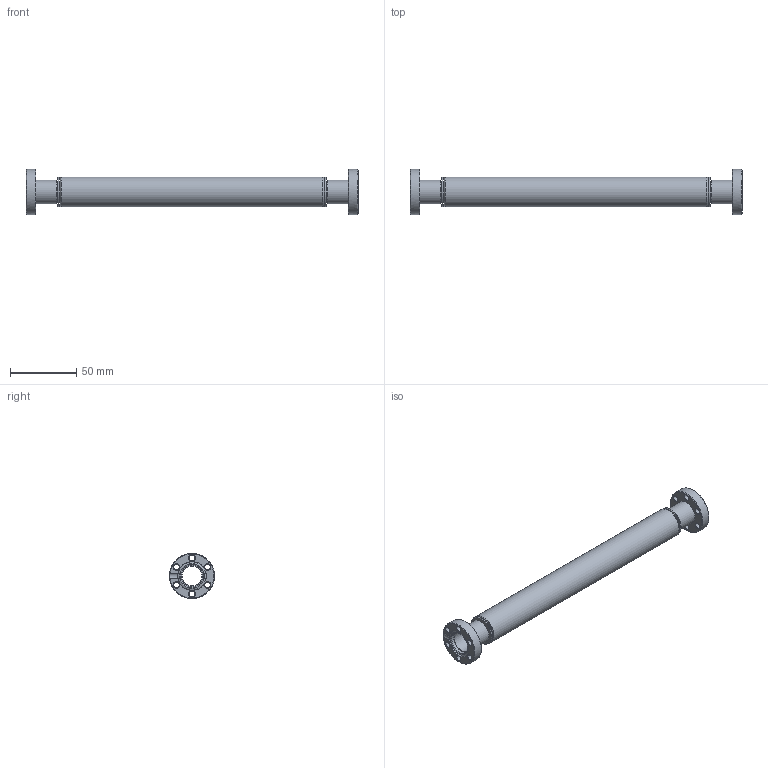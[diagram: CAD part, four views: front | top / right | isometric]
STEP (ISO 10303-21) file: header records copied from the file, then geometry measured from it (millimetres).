
FILE_DESCRIPTION((''),'2;1');
FILE_NAME('W:\13785_CF_Global_Fit_Umsetzung\182_Flexible_Metal\M213-361.stp','2010-09-01T14:52:27',('KAA'),(''),'Autodesk Inventor 2011','Autodesk Inventor 2011','');
FILE_SCHEMA(('AUTOMOTIVE_DESIGN { 1 0 10303 214 1 1 1 1 }'));
Length unit declared in the file: millimetre
Products named in the file (1): 213-361
Bounding box: 250 x 34 x 34 mm (x, y, z)
Volume: 13366.7 mm3; surface area: 41389.8 mm2
Topology: 1 solids, 1 shells, 114 faces, 244 edges, 155 vertices
Faces by surface type: cone 37, cylinder 29, plane 27, torus 21
Full cylindrical faces by diameter (mm): 4.4 x12, 16 x2, 17.2 x2, 18 x2, 18.3 x2, 18.6 x1, 21.3 x1, 21.4 x1, 22.1 x1, 22.5 x1, 34 x2
Entity records: 2791 total; most frequent: DIRECTION 482, CARTESIAN_POINT 476, ORIENTED_EDGE 288, EDGE_LOOP 243, AXIS2_PLACEMENT_3D 239, EDGE_CURVE 144, VERTEX_POINT 135, FACE_BOUND 129
